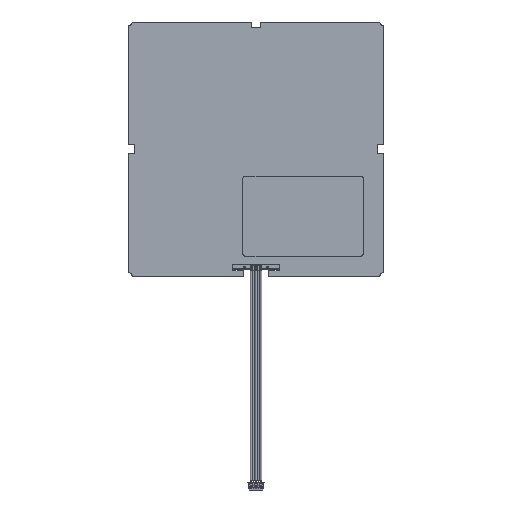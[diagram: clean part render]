
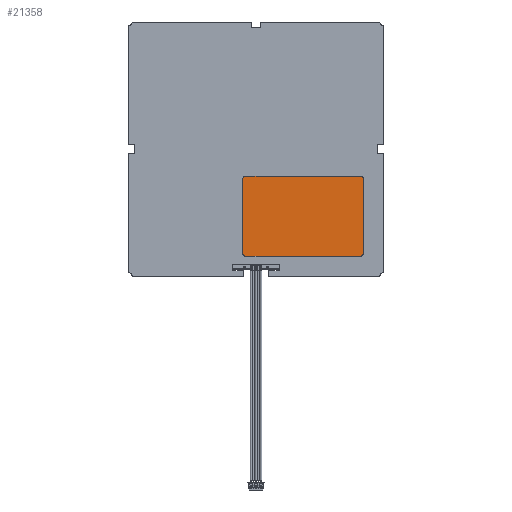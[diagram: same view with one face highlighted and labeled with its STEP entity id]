
A CAD part, front view. The second image highlights one B-rep face of the part: STEP entity #21358.
In plain terms, the highlighted planar face has unit normal (0, -1, 0).
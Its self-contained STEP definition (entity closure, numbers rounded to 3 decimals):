
#657 = CARTESIAN_POINT ( 'NONE',  ( -5.5, -1.693, -14.5 ) ) ;
#1359 = DIRECTION ( 'NONE',  ( 0., -1., 0. ) ) ;
#1734 = CARTESIAN_POINT ( 'NONE',  ( 52.5, -1.693, -13.5 ) ) ;
#1902 = CARTESIAN_POINT ( 'NONE',  ( 23.5, -1.693, -33.5 ) ) ;
#4283 = DIRECTION ( 'NONE',  ( 0., 0., 1. ) ) ;
#5332 = DIRECTION ( 'NONE',  ( 0., 0., 1. ) ) ;
#5526 = CARTESIAN_POINT ( 'NONE',  ( 53.5, -1.693, -13.5 ) ) ;
#5716 = DIRECTION ( 'NONE',  ( 0., -1., 0. ) ) ;
#6429 = CARTESIAN_POINT ( 'NONE',  ( 52.5, -1.693, -52.5 ) ) ;
#9215 = DIRECTION ( 'NONE',  ( -1., 0., 0. ) ) ;
#9952 = CARTESIAN_POINT ( 'NONE',  ( -6.5, -1.693, -52.5 ) ) ;
#10088 = DIRECTION ( 'NONE',  ( 0., 0., 1. ) ) ;
#10093 = VECTOR ( 'NONE', #39041, 1000. ) ;
#10545 = ORIENTED_EDGE ( 'NONE', *, *, #37912, .T. ) ;
#10855 = ORIENTED_EDGE ( 'NONE', *, *, #21372, .T. ) ;
#10968 = EDGE_CURVE ( 'NONE', #11226, #29532, #38902, .T. ) ;
#11226 = VERTEX_POINT ( 'NONE', #9952 ) ;
#11328 = CARTESIAN_POINT ( 'NONE',  ( -6.5, -1.693, -53.5 ) ) ;
#11624 = AXIS2_PLACEMENT_3D ( 'NONE', #23251, #1359, #26904 ) ;
#13137 = LINE ( 'NONE', #41808, #40010 ) ;
#13343 = VERTEX_POINT ( 'NONE', #42051 ) ;
#13458 = CARTESIAN_POINT ( 'NONE',  ( 53.5, -1.693, -53.5 ) ) ;
#16599 = DIRECTION ( 'NONE',  ( 0., 0., 1. ) ) ;
#18688 = LINE ( 'NONE', #13458, #10093 ) ;
#20341 = ORIENTED_EDGE ( 'NONE', *, *, #21024, .T. ) ;
#20663 = AXIS2_PLACEMENT_3D ( 'NONE', #6429, #31992, #10088 ) ;
#21024 = EDGE_CURVE ( 'NONE', #13343, #11226, #24357, .T. ) ;
#21358 = ADVANCED_FACE ( 'NONE', ( #32328 ), #34804, .T. ) ;
#21372 = EDGE_CURVE ( 'NONE', #24252, #40937, #22635, .T. ) ;
#21534 = AXIS2_PLACEMENT_3D ( 'NONE', #657, #26167, #4283 ) ;
#22246 = VERTEX_POINT ( 'NONE', #22735 ) ;
#22635 = CIRCLE ( 'NONE', #36093, 1. ) ;
#22735 = CARTESIAN_POINT ( 'NONE',  ( 52.5, -1.693, -53.5 ) ) ;
#22969 = CARTESIAN_POINT ( 'NONE',  ( 53.5, -1.693, -52.5 ) ) ;
#23251 = CARTESIAN_POINT ( 'NONE',  ( -5.5, -1.693, -52.5 ) ) ;
#24252 = VERTEX_POINT ( 'NONE', #37687 ) ;
#24357 = LINE ( 'NONE', #11328, #45026 ) ;
#25119 = ORIENTED_EDGE ( 'NONE', *, *, #40123, .T. ) ;
#25675 = CARTESIAN_POINT ( 'NONE',  ( -5.5, -1.693, -53.5 ) ) ;
#26167 = DIRECTION ( 'NONE',  ( 0., -1., 0. ) ) ;
#26817 = LINE ( 'NONE', #5526, #45209 ) ;
#26904 = DIRECTION ( 'NONE',  ( 0., 0., 1. ) ) ;
#27166 = EDGE_LOOP ( 'NONE', ( #10545, #46738, #20341, #32437, #25119, #45708, #31641, #10855 ) ) ;
#27584 = CARTESIAN_POINT ( 'NONE',  ( 52.5, -1.693, -14.5 ) ) ;
#28179 = EDGE_CURVE ( 'NONE', #22246, #36079, #37801, .T. ) ;
#29532 = VERTEX_POINT ( 'NONE', #25675 ) ;
#31275 = DIRECTION ( 'NONE',  ( 0., 0., 1. ) ) ;
#31422 = EDGE_CURVE ( 'NONE', #31564, #13343, #34136, .T. ) ;
#31564 = VERTEX_POINT ( 'NONE', #45191 ) ;
#31641 = ORIENTED_EDGE ( 'NONE', *, *, #43241, .T. ) ;
#31992 = DIRECTION ( 'NONE',  ( 0., -1., 0. ) ) ;
#32328 = FACE_OUTER_BOUND ( 'NONE', #27166, .T. ) ;
#32437 = ORIENTED_EDGE ( 'NONE', *, *, #10968, .T. ) ;
#34136 = CIRCLE ( 'NONE', #21534, 1. ) ;
#34804 = PLANE ( 'NONE',  #38562 ) ;
#36079 = VERTEX_POINT ( 'NONE', #22969 ) ;
#36093 = AXIS2_PLACEMENT_3D ( 'NONE', #27584, #5716, #31275 ) ;
#36867 = DIRECTION ( 'NONE',  ( 0., 0., -1. ) ) ;
#37687 = CARTESIAN_POINT ( 'NONE',  ( 53.5, -1.693, -14.5 ) ) ;
#37801 = CIRCLE ( 'NONE', #20663, 1. ) ;
#37912 = EDGE_CURVE ( 'NONE', #40937, #31564, #26817, .T. ) ;
#38464 = DIRECTION ( 'NONE',  ( 0., -1., 0. ) ) ;
#38562 = AXIS2_PLACEMENT_3D ( 'NONE', #1902, #38464, #16599 ) ;
#38902 = CIRCLE ( 'NONE', #11624, 1. ) ;
#39041 = DIRECTION ( 'NONE',  ( 1., 0., 0. ) ) ;
#40010 = VECTOR ( 'NONE', #5332, 1000. ) ;
#40123 = EDGE_CURVE ( 'NONE', #29532, #22246, #18688, .T. ) ;
#40937 = VERTEX_POINT ( 'NONE', #1734 ) ;
#41808 = CARTESIAN_POINT ( 'NONE',  ( 53.5, -1.693, -53.5 ) ) ;
#42051 = CARTESIAN_POINT ( 'NONE',  ( -6.5, -1.693, -14.5 ) ) ;
#43241 = EDGE_CURVE ( 'NONE', #36079, #24252, #13137, .T. ) ;
#45026 = VECTOR ( 'NONE', #36867, 1000. ) ;
#45191 = CARTESIAN_POINT ( 'NONE',  ( -5.5, -1.693, -13.5 ) ) ;
#45209 = VECTOR ( 'NONE', #9215, 1000. ) ;
#45708 = ORIENTED_EDGE ( 'NONE', *, *, #28179, .T. ) ;
#46738 = ORIENTED_EDGE ( 'NONE', *, *, #31422, .T. ) ;
